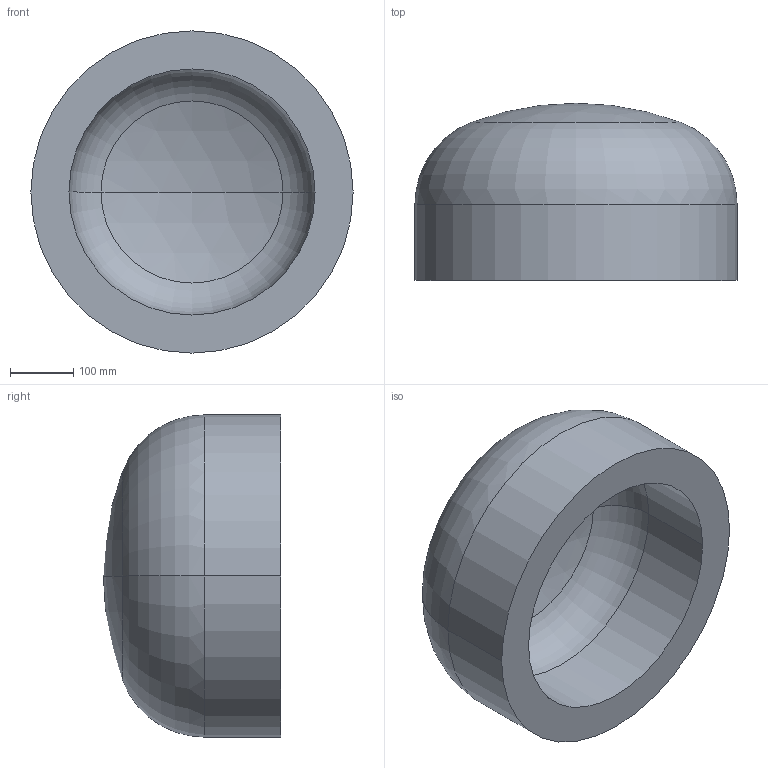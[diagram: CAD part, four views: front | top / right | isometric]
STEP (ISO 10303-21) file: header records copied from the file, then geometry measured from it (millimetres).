
FILE_DESCRIPTION (( 'STEP AP203' ), '1' );
FILE_NAME ('DIN 28013 Korbbogenform_-_Boden DIN 28013 - 508 x 120 - I - s=60.step', '2016-07-01T07:56:09', ( '' ), ( '' ), 'SwSTEP 2.0', 'SolidWorks 2013', '' );
FILE_SCHEMA (( 'CONFIG_CONTROL_DESIGN' ));
Length unit declared in the file: millimetre
Products named in the file (1): DIN 28013 Korbbogenform_-_Boden DIN 28013 - 508 x 120 - I - s=60
Bounding box: 508 x 279.2 x 508 mm (x, y, z)
Volume: 24702551.8 mm3; surface area: 915404.2 mm2
Topology: 1 solids, 1 shells, 13 faces, 24 edges, 14 vertices
Faces by surface type: torus 4, cylinder 4, sphere 4, plane 1
Entity records: 407 total; most frequent: DIRECTION 72, CARTESIAN_POINT 52, ORIENTED_EDGE 48, AXIS2_PLACEMENT_3D 34, EDGE_CURVE 24, CIRCLE 20, EDGE_LOOP 14, VERTEX_POINT 14
